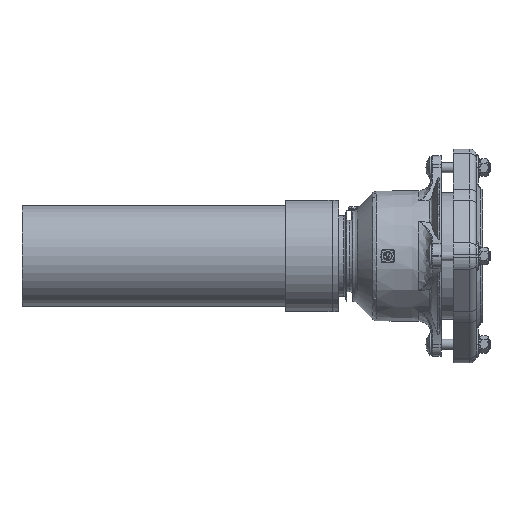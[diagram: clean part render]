
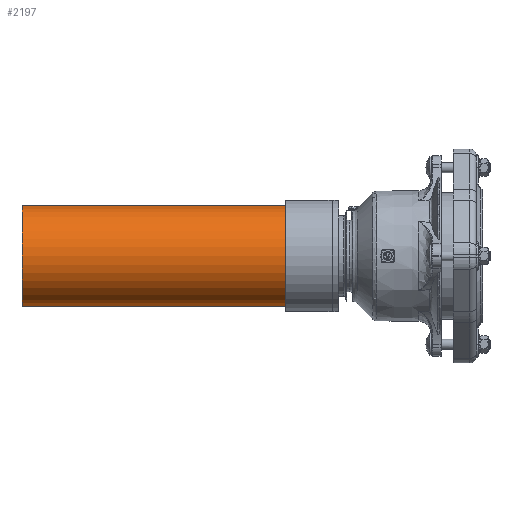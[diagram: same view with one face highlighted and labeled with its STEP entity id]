
A CAD part, front view. The second image highlights one B-rep face of the part: STEP entity #2197.
In plain terms, the highlighted cylindrical face has radius 80 mm (diameter 160 mm), a full revolution.
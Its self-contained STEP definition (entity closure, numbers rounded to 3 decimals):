
#2170=CARTESIAN_POINT('',(-664.445,0.,0.));
#2171=DIRECTION('',(1.0,0.0,0.0));
#2172=DIRECTION('',(0.0,0.0,1.0));
#2173=AXIS2_PLACEMENT_3D('',#2170,#2171,#2172);
#2174=CYLINDRICAL_SURFACE('',#2173,80.0);
#2175=CARTESIAN_POINT('',(-664.445,0.,-80.0));
#2176=VERTEX_POINT('',#2175);
#2177=CARTESIAN_POINT('',(-664.445,0.,0.));
#2178=DIRECTION('',(-1.0,0.0,0.0));
#2179=DIRECTION('',(0.0,0.0,1.0));
#2180=AXIS2_PLACEMENT_3D('',#2177,#2178,#2179);
#2181=CIRCLE('',#2180,80.0);
#2182=EDGE_CURVE('',#2176,#2176,#2181,.T.);
#2183=ORIENTED_EDGE('',*,*,#2182,.F.);
#2184=EDGE_LOOP('',(#2183));
#2185=FACE_OUTER_BOUND('',#2184,.T.);
#2186=CARTESIAN_POINT('',(-195.445,0.,-80.0));
#2187=VERTEX_POINT('',#2186);
#2188=CARTESIAN_POINT('',(-195.445,0.,0.));
#2189=DIRECTION('',(1.0,0.0,0.0));
#2190=DIRECTION('',(0.0,0.0,1.0));
#2191=AXIS2_PLACEMENT_3D('',#2188,#2189,#2190);
#2192=CIRCLE('',#2191,80.0);
#2193=EDGE_CURVE('',#2187,#2187,#2192,.T.);
#2194=ORIENTED_EDGE('',*,*,#2193,.F.);
#2195=EDGE_LOOP('',(#2194));
#2196=FACE_BOUND('',#2195,.T.);
#2197=ADVANCED_FACE('',(#2185,#2196),#2174,.T.);
